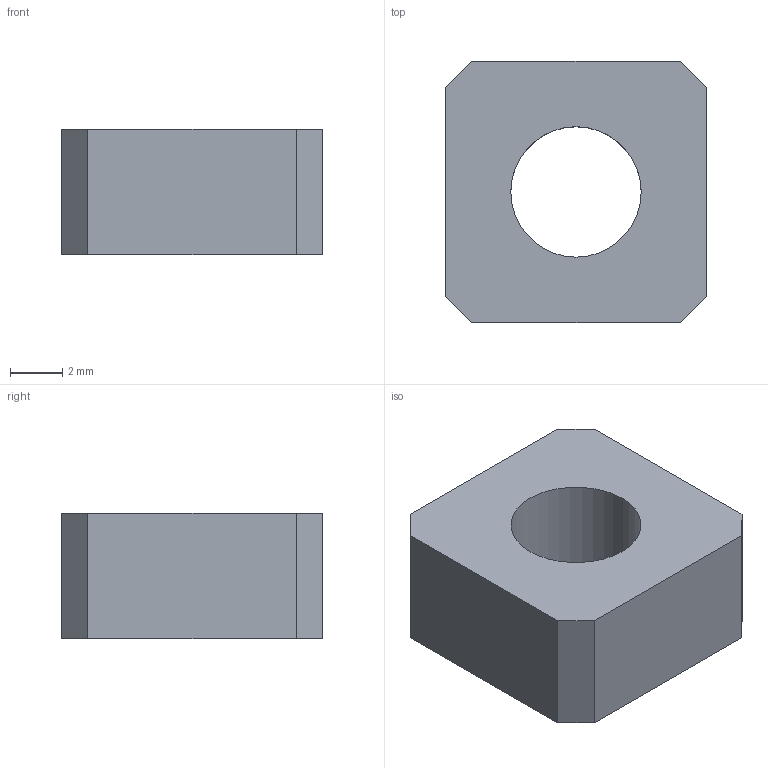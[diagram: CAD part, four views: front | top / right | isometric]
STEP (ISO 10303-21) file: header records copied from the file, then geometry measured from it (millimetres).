
FILE_DESCRIPTION (( 'STEP AP203' ), '1' );
FILE_NAME ('5272.STEP', '2016-04-16T12:59:16', ( '' ), ( '' ), 'SwSTEP 2.0', 'SolidWorks 2014', '' );
FILE_SCHEMA (( 'CONFIG_CONTROL_DESIGN' ));
Length unit declared in the file: millimetre
Products named in the file (1): 5272
Bounding box: 10 x 10 x 4.8 mm (x, y, z)
Volume: 376.2 mm3; surface area: 412.9 mm2
Topology: 1 solids, 1 shells, 12 faces, 30 edges, 20 vertices
Faces by surface type: plane 10, cylinder 2
Entity records: 439 total; most frequent: CARTESIAN_POINT 63, DIRECTION 60, ORIENTED_EDGE 60, EDGE_CURVE 30, LINE 26, VECTOR 26, VERTEX_POINT 20, AXIS2_PLACEMENT_3D 17
